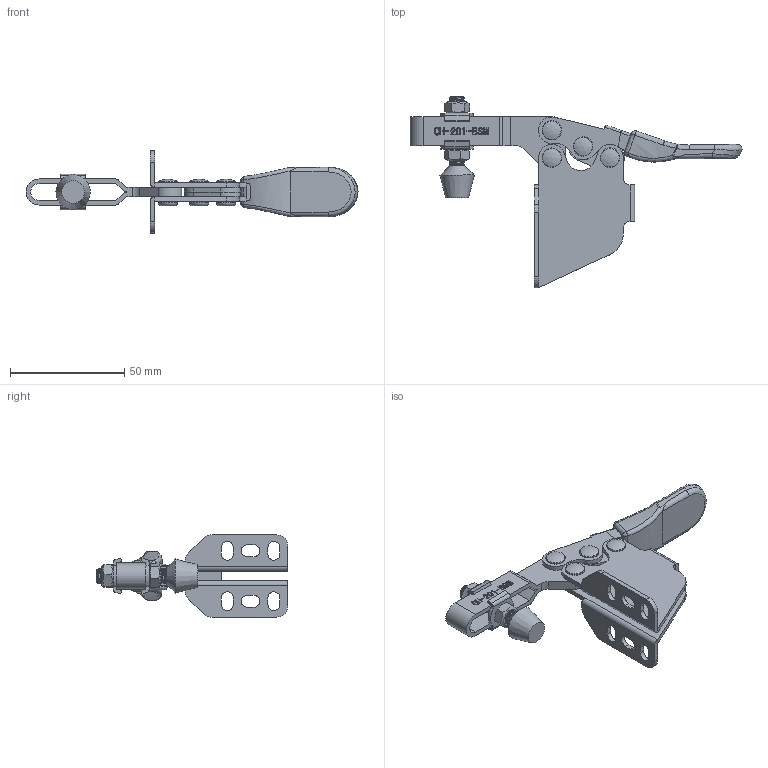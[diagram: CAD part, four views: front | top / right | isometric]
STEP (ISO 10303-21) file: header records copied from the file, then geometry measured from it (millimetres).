
FILE_DESCRIPTION(/* description */ ('STEP AP203'),/* implementation_level */ '2;1');
FILE_NAME(/* name */ 'E:\STRONA\Horizontal toggle clamp\CH-201-BSM\CH-201-BSM_ZAMKNIETY.stp',/* time_stamp */ '2019-01-15T12:56:50+01:00',/* author */ ('Admin'),/* organization */ ('·L?¤¤?'),/* preprocessor_version */ 'ST-DEVELOPER v17.2',/* originating_system */ 'Autodesk Inventor 2019',/* authorisation */ '');
FILE_SCHEMA (('AUTOMOTIVE_DESIGN { 1 0 10303 214 3 1 1 }'));
Products named in the file (11): CH-201-BSM_ZAMKNIETY; 201-B___; 201-B-05___; 201-B-03___; 14134-02___; 14134___; CH-201-BSM-01___; 201-B-04___; FW140___; CH-201-BSM-02___; 201-B-06___
Assembly tree (16 placements, depth 3):
  CH-201-BSM_ZAMKNIETY
    14134-02___  x2
    201-B-06___  x4
    201-B-04___  x2
    201-B___
      201-B-05___
      201-B-03___
    14134___
    CH-201-BSM-01___
    FW140___  x2
    CH-201-BSM-02___
Bounding box: 145.16 x 83.82 x 36 mm (x, y, z)
Volume: 27005.6 mm3; surface area: 30081 mm2
Topology: 15 solids, 17 shells, 747 faces, 2061 edges, 1379 vertices
Faces by surface type: plane 325, bspline 215, cylinder 166, cone 18, torus 18, sphere 5
Full cylindrical faces by diameter (mm): 1.7 x1, 2.4 x1, 3.494 x4, 4.7 x4, 4.78 x6, 4.8 x8, 5.1 x6, 6.3 x2, 6.4 x26, 8.5 x8
Entity records: 51669 total; most frequent: CARTESIAN_POINT 35611, ORIENTED_EDGE 3664, DIRECTION 2547, EDGE_CURVE 1832, VERTEX_POINT 1220, LINE 1009, VECTOR 1009, AXIS2_PLACEMENT_3D 769
